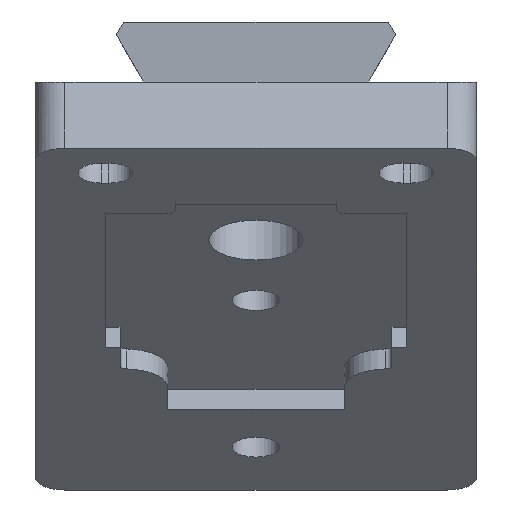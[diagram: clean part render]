
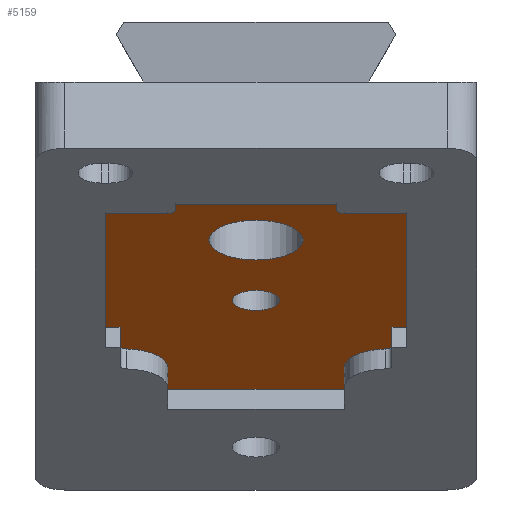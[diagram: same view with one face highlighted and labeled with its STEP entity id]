
A CAD part, left-side view. The second image highlights one B-rep face of the part: STEP entity #5159.
In plain terms, the highlighted planar face has unit normal (-0.423, 0, -0.906).
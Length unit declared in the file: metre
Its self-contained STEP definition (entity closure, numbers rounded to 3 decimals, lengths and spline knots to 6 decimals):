
#290=CIRCLE('',#5201,0.0016);
#292=CIRCLE('',#5204,0.0032);
#381=CIRCLE('',#5522,0.0005);
#382=CIRCLE('',#5523,0.003);
#383=CIRCLE('',#5524,0.003);
#384=CIRCLE('',#5525,0.0005);
#385=CIRCLE('',#5526,0.0005);
#386=CIRCLE('',#5527,0.0005);
#1821=ORIENTED_EDGE('',*,*,#2609,.T.);
#1822=ORIENTED_EDGE('',*,*,#2623,.T.);
#1823=ORIENTED_EDGE('',*,*,#2624,.T.);
#1824=ORIENTED_EDGE('',*,*,#2610,.T.);
#1825=ORIENTED_EDGE('',*,*,#2614,.T.);
#1826=ORIENTED_EDGE('',*,*,#2616,.F.);
#1827=ORIENTED_EDGE('',*,*,#2625,.T.);
#1828=ORIENTED_EDGE('',*,*,#2626,.T.);
#1829=ORIENTED_EDGE('',*,*,#2617,.F.);
#1830=ORIENTED_EDGE('',*,*,#2621,.F.);
#1831=ORIENTED_EDGE('',*,*,#2622,.T.);
#1832=ORIENTED_EDGE('',*,*,#2592,.F.);
#1833=ORIENTED_EDGE('',*,*,#2627,.T.);
#1834=ORIENTED_EDGE('',*,*,#2594,.T.);
#1835=ORIENTED_EDGE('',*,*,#2598,.T.);
#1836=ORIENTED_EDGE('',*,*,#2600,.F.);
#1837=ORIENTED_EDGE('',*,*,#2628,.T.);
#1838=ORIENTED_EDGE('',*,*,#2601,.F.);
#1839=ORIENTED_EDGE('',*,*,#2605,.F.);
#1840=ORIENTED_EDGE('',*,*,#2607,.F.);
#1841=ORIENTED_EDGE('',*,*,#1921,.F.);
#1842=ORIENTED_EDGE('',*,*,#1923,.F.);
#1921=EDGE_CURVE('',#2669,#2669,#290,.T.);
#1923=EDGE_CURVE('',#2671,#2671,#292,.T.);
#2592=EDGE_CURVE('',#3114,#3115,#3594,.T.);
#2594=EDGE_CURVE('',#3116,#3117,#3596,.T.);
#2598=EDGE_CURVE('',#3117,#3118,#3600,.T.);
#2600=EDGE_CURVE('',#3119,#3118,#3602,.T.);
#2601=EDGE_CURVE('',#3120,#3121,#3603,.T.);
#2605=EDGE_CURVE('',#3122,#3120,#3607,.T.);
#2607=EDGE_CURVE('',#3123,#3122,#3609,.T.);
#2609=EDGE_CURVE('',#3123,#3124,#3611,.T.);
#2610=EDGE_CURVE('',#3125,#3126,#3612,.T.);
#2614=EDGE_CURVE('',#3126,#3127,#3616,.T.);
#2616=EDGE_CURVE('',#3128,#3127,#3618,.T.);
#2617=EDGE_CURVE('',#3129,#3130,#3619,.T.);
#2621=EDGE_CURVE('',#3131,#3129,#3623,.T.);
#2622=EDGE_CURVE('',#3131,#3115,#3624,.T.);
#2623=EDGE_CURVE('',#3124,#3132,#381,.T.);
#2624=EDGE_CURVE('',#3132,#3125,#382,.F.);
#2625=EDGE_CURVE('',#3128,#3133,#383,.F.);
#2626=EDGE_CURVE('',#3133,#3130,#384,.T.);
#2627=EDGE_CURVE('',#3114,#3116,#385,.F.);
#2628=EDGE_CURVE('',#3119,#3121,#386,.F.);
#2669=VERTEX_POINT('',#6823);
#2671=VERTEX_POINT('',#6828);
#3114=VERTEX_POINT('',#8824);
#3115=VERTEX_POINT('',#8826);
#3116=VERTEX_POINT('',#8830);
#3117=VERTEX_POINT('',#8831);
#3118=VERTEX_POINT('',#8836);
#3119=VERTEX_POINT('',#8840);
#3120=VERTEX_POINT('',#8844);
#3121=VERTEX_POINT('',#8845);
#3122=VERTEX_POINT('',#8850);
#3123=VERTEX_POINT('',#8854);
#3124=VERTEX_POINT('',#8858);
#3125=VERTEX_POINT('',#8862);
#3126=VERTEX_POINT('',#8863);
#3127=VERTEX_POINT('',#8868);
#3128=VERTEX_POINT('',#8872);
#3129=VERTEX_POINT('',#8876);
#3130=VERTEX_POINT('',#8877);
#3131=VERTEX_POINT('',#8882);
#3132=VERTEX_POINT('',#8888);
#3133=VERTEX_POINT('',#8891);
#3594=LINE('',#8825,#4087);
#3596=LINE('',#8829,#4089);
#3600=LINE('',#8837,#4093);
#3602=LINE('',#8841,#4095);
#3603=LINE('',#8843,#4096);
#3607=LINE('',#8851,#4100);
#3609=LINE('',#8855,#4102);
#3611=LINE('',#8859,#4104);
#3612=LINE('',#8861,#4105);
#3616=LINE('',#8869,#4109);
#3618=LINE('',#8873,#4111);
#3619=LINE('',#8875,#4112);
#3623=LINE('',#8883,#4116);
#3624=LINE('',#8885,#4117);
#4087=VECTOR('',#6650,1.);
#4089=VECTOR('',#6654,1.);
#4093=VECTOR('',#6660,1.);
#4095=VECTOR('',#6664,1.);
#4096=VECTOR('',#6667,1.);
#4100=VECTOR('',#6673,1.);
#4102=VECTOR('',#6677,1.);
#4104=VECTOR('',#6681,1.);
#4105=VECTOR('',#6684,1.);
#4109=VECTOR('',#6690,1.);
#4111=VECTOR('',#6694,1.);
#4112=VECTOR('',#6697,1.);
#4116=VECTOR('',#6703,1.);
#4117=VECTOR('',#6706,1.);
#4418=EDGE_LOOP('',(#1821,#1822,#1823,#1824,#1825,#1826,#1827,#1828,#1829,
#1830,#1831,#1832,#1833,#1834,#1835,#1836,#1837,#1838,#1839,#1840));
#4419=EDGE_LOOP('',(#1841));
#4420=EDGE_LOOP('',(#1842));
#4729=FACE_BOUND('',#4418,.T.);
#4730=FACE_BOUND('',#4419,.T.);
#4731=FACE_BOUND('',#4420,.T.);
#4895=PLANE('',#5521);
#5159=ADVANCED_FACE('',(#4729,#4730,#4731),#4895,.T.);
#5201=AXIS2_PLACEMENT_3D('',#6822,#5598,#5599);
#5204=AXIS2_PLACEMENT_3D('',#6827,#5604,#5605);
#5521=AXIS2_PLACEMENT_3D('',#8886,#6707,#6708);
#5522=AXIS2_PLACEMENT_3D('',#8887,#6709,#6710);
#5523=AXIS2_PLACEMENT_3D('',#8889,#6711,#6712);
#5524=AXIS2_PLACEMENT_3D('',#8890,#6713,#6714);
#5525=AXIS2_PLACEMENT_3D('',#8892,#6715,#6716);
#5526=AXIS2_PLACEMENT_3D('',#8893,#6717,#6718);
#5527=AXIS2_PLACEMENT_3D('',#8894,#6719,#6720);
#5598=DIRECTION('',(-0.423,0.,-0.906));
#5599=DIRECTION('',(-0.906,0.,0.423));
#5604=DIRECTION('',(-0.423,0.,-0.906));
#5605=DIRECTION('',(-0.906,0.,0.423));
#6650=DIRECTION('',(0.,-1.,0.));
#6654=DIRECTION('',(-0.906,0.,0.423));
#6660=DIRECTION('',(0.,1.,0.));
#6664=DIRECTION('',(-0.906,0.,0.423));
#6667=DIRECTION('',(0.,-1.,0.));
#6673=DIRECTION('',(-0.906,0.,0.423));
#6677=DIRECTION('',(0.,1.,0.));
#6681=DIRECTION('',(0.906,0.,-0.423));
#6684=DIRECTION('',(0.906,0.,-0.423));
#6690=DIRECTION('',(0.,-1.,0.));
#6694=DIRECTION('',(0.906,0.,-0.423));
#6697=DIRECTION('',(0.906,0.,-0.423));
#6703=DIRECTION('',(0.,1.,0.));
#6706=DIRECTION('',(-0.906,0.,0.423));
#6707=DIRECTION('',(-0.423,0.,-0.906));
#6708=DIRECTION('',(0.906,0.,-0.423));
#6709=DIRECTION('',(-0.423,0.,-0.906));
#6710=DIRECTION('',(-0.906,0.,0.423));
#6711=DIRECTION('',(-0.423,0.,-0.906));
#6712=DIRECTION('',(-0.906,0.,0.423));
#6713=DIRECTION('',(-0.423,0.,-0.906));
#6714=DIRECTION('',(-0.906,0.,0.423));
#6715=DIRECTION('',(-0.423,0.,-0.906));
#6716=DIRECTION('',(-0.906,0.,0.423));
#6717=DIRECTION('',(-0.423,0.,-0.906));
#6718=DIRECTION('',(-0.906,0.,0.423));
#6719=DIRECTION('',(-0.423,0.,-0.906));
#6720=DIRECTION('',(-0.906,0.,0.423));
#6822=CARTESIAN_POINT('',(0.023645,0.,-0.014836));
#6823=CARTESIAN_POINT('',(0.022195,0.,-0.01416));
#6827=CARTESIAN_POINT('',(0.014854,0.,-0.010737));
#6828=CARTESIAN_POINT('',(0.011954,0.,-0.009384));
#8824=CARTESIAN_POINT('',(0.008057,-0.006,-0.007567));
#8825=CARTESIAN_POINT('',(0.008057,-0.007875,-0.007567));
#8826=CARTESIAN_POINT('',(0.008057,-0.01025,-0.007567));
#8829=CARTESIAN_POINT('',(0.007422,-0.0055,-0.007271));
#8830=CARTESIAN_POINT('',(0.007604,-0.0055,-0.007356));
#8831=CARTESIAN_POINT('',(0.006788,-0.0055,-0.006975));
#8836=CARTESIAN_POINT('',(0.006788,0.0055,-0.006975));
#8837=CARTESIAN_POINT('',(0.006788,0.,-0.006975));
#8840=CARTESIAN_POINT('',(0.007604,0.0055,-0.007356));
#8841=CARTESIAN_POINT('',(0.007422,0.0055,-0.007271));
#8843=CARTESIAN_POINT('',(0.008057,0.007875,-0.007567));
#8844=CARTESIAN_POINT('',(0.008057,0.01025,-0.007567));
#8845=CARTESIAN_POINT('',(0.008057,0.006,-0.007567));
#8850=CARTESIAN_POINT('',(0.027543,0.01025,-0.016653));
#8851=CARTESIAN_POINT('',(0.0178,0.01025,-0.01211));
#8854=CARTESIAN_POINT('',(0.027543,0.00925,-0.016653));
#8855=CARTESIAN_POINT('',(0.027543,0.00975,-0.016653));
#8858=CARTESIAN_POINT('',(0.03027,0.00925,-0.017925));
#8859=CARTESIAN_POINT('',(0.029129,0.00925,-0.017393));
#8861=CARTESIAN_POINT('',(0.03366,0.006,-0.019506));
#8862=CARTESIAN_POINT('',(0.033434,0.006,-0.0194));
#8863=CARTESIAN_POINT('',(0.036606,0.006,-0.02088));
#8868=CARTESIAN_POINT('',(0.036606,-0.006,-0.02088));
#8869=CARTESIAN_POINT('',(0.036606,0.,-0.02088));
#8872=CARTESIAN_POINT('',(0.033434,-0.006,-0.0194));
#8873=CARTESIAN_POINT('',(0.03366,-0.006,-0.019506));
#8875=CARTESIAN_POINT('',(0.029129,-0.00925,-0.017393));
#8876=CARTESIAN_POINT('',(0.027543,-0.00925,-0.016653));
#8877=CARTESIAN_POINT('',(0.03027,-0.00925,-0.017925));
#8882=CARTESIAN_POINT('',(0.027543,-0.01025,-0.016653));
#8883=CARTESIAN_POINT('',(0.027543,-0.00975,-0.016653));
#8885=CARTESIAN_POINT('',(0.021198,-0.01025,-0.013695));
#8886=CARTESIAN_POINT('',(0.023464,0.,-0.014752));
#8887=CARTESIAN_POINT('',(0.03027,0.00875,-0.017925));
#8888=CARTESIAN_POINT('',(0.030722,0.008786,-0.018136));
#8889=CARTESIAN_POINT('',(0.033434,0.009,-0.0194));
#8890=CARTESIAN_POINT('',(0.033434,-0.009,-0.0194));
#8891=CARTESIAN_POINT('',(0.030722,-0.008786,-0.018136));
#8892=CARTESIAN_POINT('',(0.03027,-0.00875,-0.017925));
#8893=CARTESIAN_POINT('',(0.007604,-0.006,-0.007356));
#8894=CARTESIAN_POINT('',(0.007604,0.006,-0.007356));
